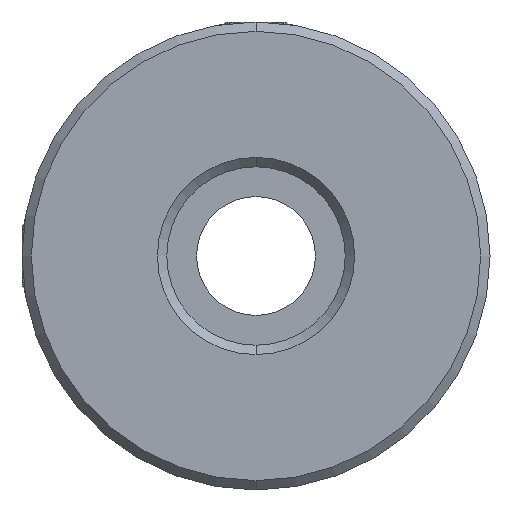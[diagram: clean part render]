
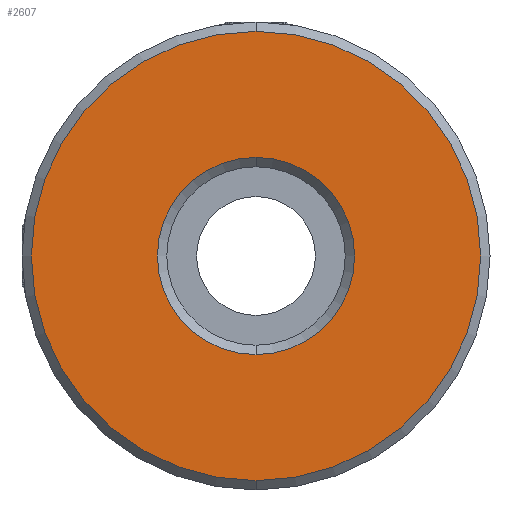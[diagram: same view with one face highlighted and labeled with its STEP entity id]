
A CAD part, front view. The second image highlights one B-rep face of the part: STEP entity #2607.
In plain terms, the highlighted planar face has unit normal (0, -1, 0).
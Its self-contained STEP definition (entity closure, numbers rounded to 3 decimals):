
#68 = CARTESIAN_POINT ( 'NONE',  ( -10.188, -0.277, 12.046 ) ) ;
#141 = DIRECTION ( 'NONE',  ( 0., 0., 1. ) ) ;
#210 = CIRCLE ( 'NONE', #2294, 5.265 ) ;
#361 = VERTEX_POINT ( 'NONE', #3489 ) ;
#372 = ORIENTED_EDGE ( 'NONE', *, *, #3555, .T. ) ;
#674 = ORIENTED_EDGE ( 'NONE', *, *, #1747, .T. ) ;
#797 = FACE_BOUND ( 'NONE', #1402, .T. ) ;
#837 = CARTESIAN_POINT ( 'NONE',  ( -10.188, -0.277, 0.046 ) ) ;
#1133 = DIRECTION ( 'NONE',  ( 0., 0., 1. ) ) ;
#1303 = ORIENTED_EDGE ( 'NONE', *, *, #3457, .T. ) ;
#1326 = DIRECTION ( 'NONE',  ( 0., 0., 1. ) ) ;
#1402 = EDGE_LOOP ( 'NONE', ( #2403, #372 ) ) ;
#1462 = CIRCLE ( 'NONE', #2715, 12. ) ;
#1546 = CIRCLE ( 'NONE', #1617, 12. ) ;
#1617 = AXIS2_PLACEMENT_3D ( 'NONE', #2529, #2337, #1133 ) ;
#1747 = EDGE_CURVE ( 'NONE', #3259, #2287, #1462, .T. ) ;
#1760 = CARTESIAN_POINT ( 'NONE',  ( -10.188, -0.277, 0.046 ) ) ;
#1825 = CARTESIAN_POINT ( 'NONE',  ( -10.188, -0.277, -11.954 ) ) ;
#1880 = EDGE_LOOP ( 'NONE', ( #674, #1303 ) ) ;
#1884 = VERTEX_POINT ( 'NONE', #1905 ) ;
#1900 = CARTESIAN_POINT ( 'NONE',  ( -10.188, -0.277, 0.046 ) ) ;
#1905 = CARTESIAN_POINT ( 'NONE',  ( -10.188, -0.277, 5.311 ) ) ;
#1911 = DIRECTION ( 'NONE',  ( 0., 0., 1. ) ) ;
#1921 = DIRECTION ( 'NONE',  ( 0., 1., 0. ) ) ;
#1969 = DIRECTION ( 'NONE',  ( 0., 0., 1. ) ) ;
#1975 = EDGE_CURVE ( 'NONE', #361, #1884, #210, .T. ) ;
#2145 = AXIS2_PLACEMENT_3D ( 'NONE', #2546, #2509, #1911 ) ;
#2286 = DIRECTION ( 'NONE',  ( 0., -1., 0. ) ) ;
#2287 = VERTEX_POINT ( 'NONE', #1825 ) ;
#2294 = AXIS2_PLACEMENT_3D ( 'NONE', #837, #2698, #141 ) ;
#2337 = DIRECTION ( 'NONE',  ( 0., -1., 0. ) ) ;
#2403 = ORIENTED_EDGE ( 'NONE', *, *, #1975, .T. ) ;
#2509 = DIRECTION ( 'NONE',  ( 0., 1., 0. ) ) ;
#2529 = CARTESIAN_POINT ( 'NONE',  ( -10.188, -0.277, 0.046 ) ) ;
#2546 = CARTESIAN_POINT ( 'NONE',  ( -10.188, -0.277, 0.046 ) ) ;
#2607 = ADVANCED_FACE ( 'NONE', ( #3393, #797 ), #3337, .F. ) ;
#2698 = DIRECTION ( 'NONE',  ( 0., 1., 0. ) ) ;
#2715 = AXIS2_PLACEMENT_3D ( 'NONE', #1760, #2286, #1969 ) ;
#2758 = AXIS2_PLACEMENT_3D ( 'NONE', #1900, #1921, #1326 ) ;
#3122 = CIRCLE ( 'NONE', #2145, 5.265 ) ;
#3259 = VERTEX_POINT ( 'NONE', #68 ) ;
#3337 = PLANE ( 'NONE',  #2758 ) ;
#3393 = FACE_OUTER_BOUND ( 'NONE', #1880, .T. ) ;
#3457 = EDGE_CURVE ( 'NONE', #2287, #3259, #1546, .T. ) ;
#3489 = CARTESIAN_POINT ( 'NONE',  ( -10.188, -0.277, -5.219 ) ) ;
#3555 = EDGE_CURVE ( 'NONE', #1884, #361, #3122, .T. ) ;
